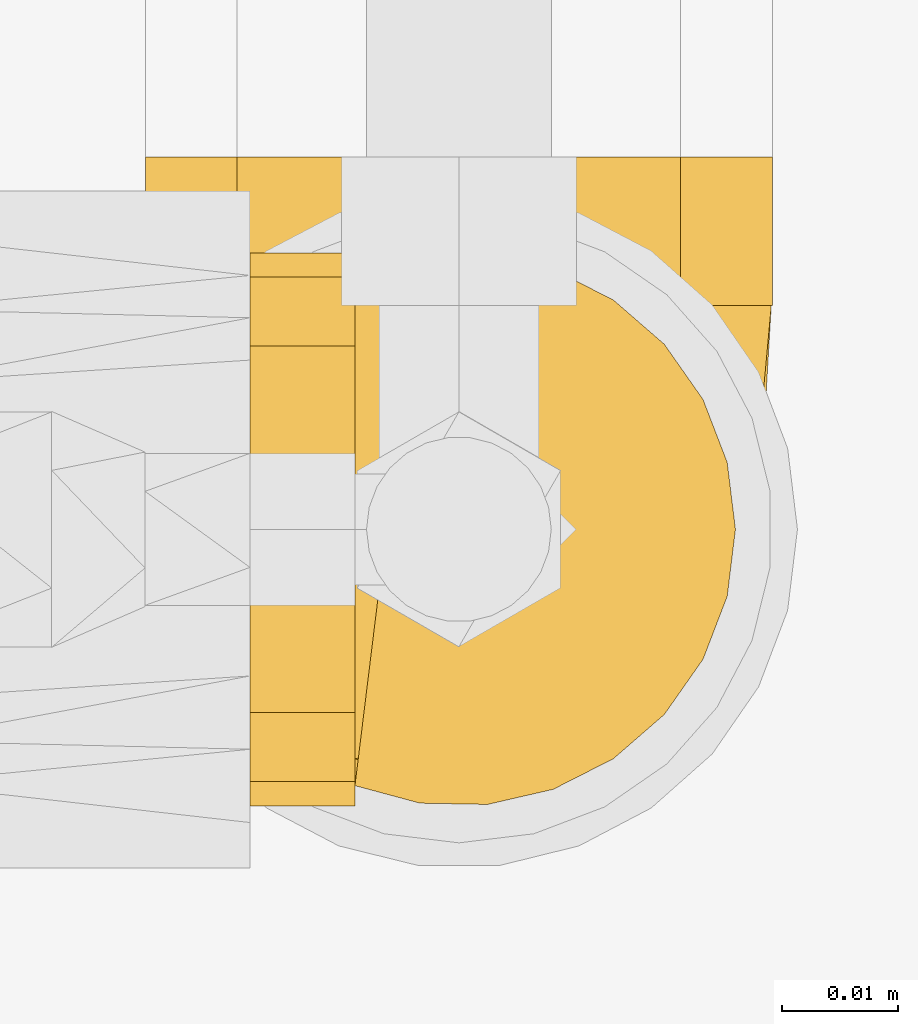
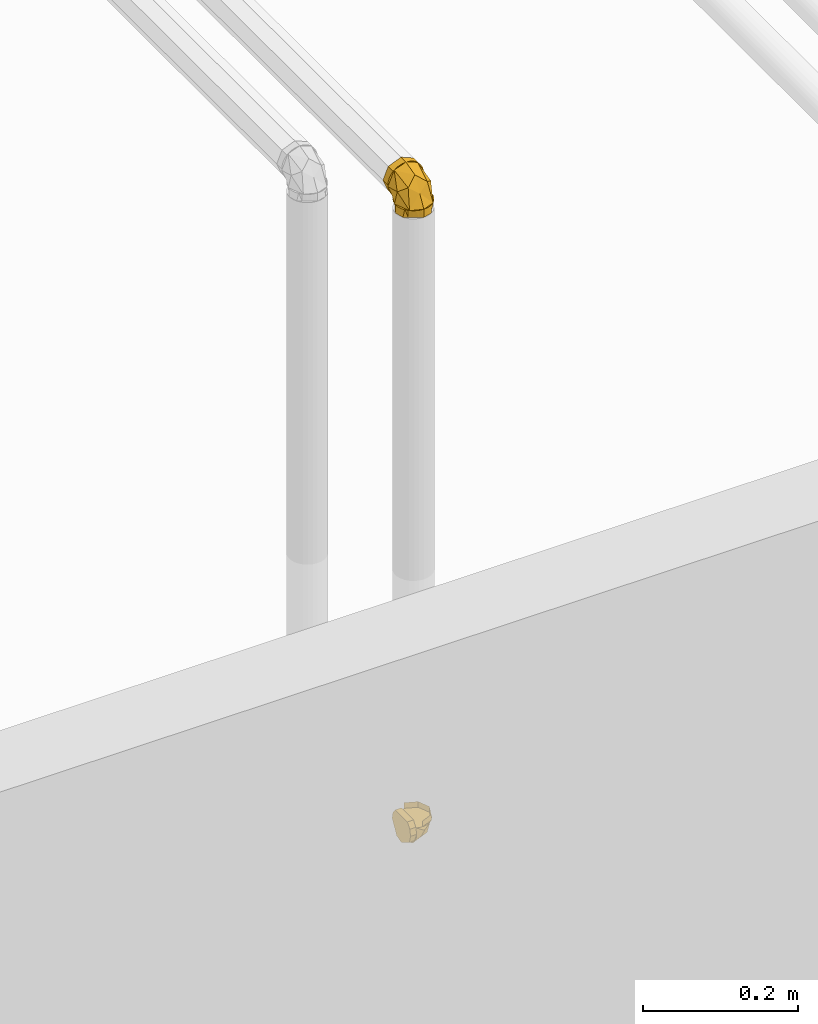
# One storey, part 345 of 652: 2 coverings.
"""IFC2X3 building model written with IfcOpenShell, lengths in millimetres."""

from ifc_helpers import new_model, entity, si_unit, converted_unit, direction, frame, origin, place, context, subcontext, project, spatial, face_set, surface_model, material, type_object, element, save


model = new_model("IFC2X3")

# Units and contexts
model_context = context("Model", 3, precision=0.01, world=frame((0.0, 0.0, 308426.39999999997)), true_north=direction((6.123233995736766e-17, 1.0)))
plan_context = context("Plan", 3, precision=0.01, world=frame((0.0, 0.0, 308426.39999999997)), true_north=direction((6.123233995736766e-17, 1.0)))
body_context = subcontext(model_context, "Body", "Model", "MODEL_VIEW")
ifc_project = project(units=[si_unit("LENGTHUNIT", "METRE", prefix="MILLI"), si_unit("AREAUNIT", "SQUARE_METRE"), si_unit("VOLUMEUNIT", "CUBIC_METRE"), converted_unit("PLANEANGLEUNIT", "DEGREE", entity("IfcPlaneAngleMeasure", 0.017453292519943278), si_unit("PLANEANGLEUNIT", "RADIAN"), dimensions=[0, 0, 0, 0, 0, 0, 0])], contexts=[model_context, plan_context])

# Site, building, storey
site_placement = place(None, origin())
site = spatial("IfcSite", under=ifc_project, at=site_placement, Name="Default", CompositionType="ELEMENT")
building_placement = place(site_placement, origin())
building = spatial("IfcBuilding", under=site, at=building_placement, CompositionType="ELEMENT")
storey_placement = place(building_placement, frame((0.0, 0.0, 1730.6999999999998)))
storey = spatial("IfcBuildingStorey", under=building, at=storey_placement, Name="EG_Produktion_FFB", CompositionType="ELEMENT", Elevation=1730.6999999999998)

# Coverings
ifc_material = material(Name="Dämmung - Armaflex-Schlauch")
covering_type = type_object("IfcCoveringType", Name="Rohrdämmung außen:Armaflex-Schlauch", PredefinedType="INSULATION")
covering_1_placement = place(storey_placement, frame((47271.46722776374, 31873.503785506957, 3668.0162499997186)))
element("IfcCovering", 1, at=covering_1_placement, inside=storey, type_object=covering_type, material=ifc_material, Name="Rohrdämmung außen:Armaflex-Schlauch", ObjectType="Rohrdämmung außen:Armaflex-Schlauch", PredefinedType="INSULATION", context=body_context, shape_type="SurfaceModel", body=[
    surface_model("IfcFaceBasedSurfaceModel", [(9.65642195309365, 47.75027223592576, 12.766249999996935), (51.38658262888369, 47.75027223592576, 17.724287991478), (54.0915642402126, 47.75027223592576, 23.47627931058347), (55.37345654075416, 47.75027223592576, 29.70195853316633), (55.16088498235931, 47.7502722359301, 36.05468574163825), (53.465685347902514, 47.7502722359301, 42.180747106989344), (50.38224474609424, 47.7502722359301, 47.739049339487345), (46.08224622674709, 47.7502722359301, 52.42011143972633), (40.8051096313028, 47.7502722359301, 55.96329630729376), (34.844660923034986, 47.7502722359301, 58.17132276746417), (28.532772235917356, 47.7502722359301, 58.92124999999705), (22.220883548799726, 47.7502722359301, 58.17132276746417), (16.26043484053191, 47.7502722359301, 55.96329630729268), (10.983298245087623, 47.7502722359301, 52.42011143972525), (6.683299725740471, 47.7502722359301, 47.739049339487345), (3.599859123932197, 47.7502722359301, 42.180747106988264), (1.904659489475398, 47.7502722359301, 36.05468574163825), (1.6920879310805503, 47.75027223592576, 29.70195853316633), (2.973980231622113, 47.75027223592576, 23.47627931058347), (5.678961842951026, 47.75027223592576, 17.72428799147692), (47.409122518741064, 47.75027223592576, 12.766249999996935), (51.38658262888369, 42.79223424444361, 12.766249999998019), (54.0915642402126, 37.04024292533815, 12.766249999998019), (55.37345654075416, 30.81456370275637, 12.7662499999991), (55.16088498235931, 24.461836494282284, 12.766250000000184), (53.465685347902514, 18.33577512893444, 12.766250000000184), (50.38224474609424, 12.77747289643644, 12.766250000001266), (46.08224622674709, 8.09641079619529, 12.766250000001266), (40.8051096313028, 4.553225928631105, 12.76625000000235), (34.844660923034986, 2.3451994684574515, 12.76625000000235), (28.532772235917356, 1.5952722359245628, 12.76625000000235), (22.220883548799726, 2.3451994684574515, 12.76625000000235), (16.26043484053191, 4.553225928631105, 12.76625000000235), (10.983298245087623, 8.09641079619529, 12.766250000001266), (6.683299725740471, 12.77747289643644, 12.766250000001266), (3.599859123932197, 18.33577512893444, 12.766250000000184), (1.904659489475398, 24.461836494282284, 12.766250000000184), (1.6920879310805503, 30.81456370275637, 12.7662499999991), (2.973980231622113, 37.04024292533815, 12.766249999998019), (5.678961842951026, 42.79223424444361, 12.766249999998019), (2.2751428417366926, 37.80652333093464, 21.44709533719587), (28.534005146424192, 24.672441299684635, 52.737627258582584), (6.340011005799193, 47.75010243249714, 41.06101440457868), (3.6006433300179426, 26.951371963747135, 33.565541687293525), (14.283712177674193, 17.333354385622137, 41.8417807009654), (28.534005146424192, 12.14064808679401, 31.030231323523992), (6.340011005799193, 19.45648060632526, 12.766229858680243), (42.77964723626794, 17.333354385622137, 41.8417807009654), (53.46736696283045, 26.951371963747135, 33.565541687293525), (54.78821657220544, 37.80652333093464, 21.44709533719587), (50.727999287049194, 19.45648060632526, 12.766229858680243), (50.727999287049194, 47.75010243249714, 41.06101440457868), (28.532772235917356, 60.51652223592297, 58.92125000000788), (33.29469446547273, 60.51652223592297, 56.94879722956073), (38.05661669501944, 60.51652223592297, 54.97634445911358), (42.81853892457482, 60.51652223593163, 53.0038916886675), (47.5804611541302, 60.51652223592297, 51.03143891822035), (49.552913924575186, 60.516522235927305, 46.26951668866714), (51.525366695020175, 60.516522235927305, 41.50759445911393), (53.497819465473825, 60.516522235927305, 36.74567222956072), (55.47027223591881, 60.516522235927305, 31.98375000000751), (53.497819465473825, 60.516522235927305, 27.2218277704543), (51.525366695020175, 60.51652223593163, 22.45990554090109), (49.552913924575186, 60.51652223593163, 17.69798331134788), (47.5804611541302, 60.51652223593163, 12.936061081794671), (42.81853892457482, 60.51652223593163, 10.963608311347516), (38.05661669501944, 60.51652223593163, 8.991155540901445), (33.29469446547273, 60.51652223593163, 7.018702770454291), (28.532772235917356, 60.51652223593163, 5.046250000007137), (23.77085000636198, 60.51652223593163, 7.018702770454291), (19.008927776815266, 60.51652223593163, 8.991155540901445), (14.247005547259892, 60.51652223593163, 10.9636083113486), (9.485083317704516, 60.51652223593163, 12.936061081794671), (7.512630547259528, 60.51652223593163, 17.69798331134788), (5.54017777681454, 60.51652223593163, 22.45990554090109), (3.567725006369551, 60.51652223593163, 27.2218277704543), (1.5952722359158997, 60.516522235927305, 31.98375000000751), (3.567725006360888, 60.516522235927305, 36.74567222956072), (5.54017777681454, 60.516522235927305, 41.50759445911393), (7.512630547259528, 60.516522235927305, 46.26951668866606), (9.485083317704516, 60.51652223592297, 51.03143891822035), (14.247005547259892, 60.51652223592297, 53.0038916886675), (19.008927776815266, 60.51652223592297, 54.97634445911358), (23.77085000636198, 60.516522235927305, 56.94879722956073), (28.532772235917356, 47.750272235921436, 58.92125000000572), (23.77085000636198, 47.750272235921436, 56.94879722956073), (19.008927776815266, 47.750272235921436, 54.97634445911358), (14.247005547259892, 47.7502722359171, 53.00389168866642), (9.485083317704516, 47.750272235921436, 51.031438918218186), (7.095738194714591, 47.75027223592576, 45.26304951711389), (4.706393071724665, 47.750272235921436, 39.494660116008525), (1.5952722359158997, 47.75027223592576, 31.983750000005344), (3.567725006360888, 47.75027223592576, 27.221827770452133), (5.54017777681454, 47.7502722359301, 22.459905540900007), (7.512630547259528, 47.7502722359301, 17.697983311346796), (9.485083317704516, 47.7502722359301, 12.936061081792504), (15.253472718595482, 47.7502722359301, 10.546715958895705), (21.021862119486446, 47.7502722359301, 8.157370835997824), (28.532772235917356, 47.7502722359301, 5.046250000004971), (33.29469446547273, 47.7502722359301, 7.018702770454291), (38.05661669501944, 47.7502722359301, 8.991155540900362), (42.81853892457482, 47.7502722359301, 10.963608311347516), (47.5804611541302, 47.7502722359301, 12.936061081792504), (49.96980627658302, 47.75027223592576, 18.704450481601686), (52.359151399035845, 47.7502722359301, 24.472839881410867), (55.47027223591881, 47.75027223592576, 31.983750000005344), (53.49781946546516, 47.75027223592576, 36.74567222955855), (51.525366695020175, 47.750272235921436, 41.507594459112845), (49.552913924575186, 47.750272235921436, 46.26951668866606), (47.5804611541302, 47.750272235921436, 51.031438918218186), (41.81207177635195, 47.750272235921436, 53.42078403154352), (36.0436823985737, 47.750272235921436, 55.81012914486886), (28.532772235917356, 1.5952722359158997, 0.0), (22.700632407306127, 4.962459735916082, 0.0), (16.868492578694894, 8.329647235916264, 0.0), (11.036352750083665, 11.696834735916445, 0.0), (5.204212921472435, 15.064022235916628, 0.0), (3.3997425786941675, 21.79839723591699, 0.0), (1.5952722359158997, 28.532772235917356, 0.0), (4.962459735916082, 34.364912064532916, 0.0), (8.329647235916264, 40.197051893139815, 0.0), (11.696834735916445, 46.02919172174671, 0.0), (15.064022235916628, 51.86133155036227, 0.0), (21.79839723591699, 53.66580189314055, 0.0), (28.532772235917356, 55.47027223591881, 0.0), (34.36491206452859, 52.10308473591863, 0.0), (40.197051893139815, 48.73589723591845, 0.0), (46.02919172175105, 45.368709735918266, 0.0), (51.86133155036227, 42.00152223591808, 0.0), (53.66580189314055, 35.26714723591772, 0.0), (55.47027223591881, 28.532772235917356, 0.0), (52.10308473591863, 22.700632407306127, 0.0), (48.73589723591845, 16.868492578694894, 0.0), (45.36870973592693, 11.036352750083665, 0.0), (42.00152223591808, 5.204212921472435, 0.0), (35.26714723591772, 3.3997425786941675, 0.0), (28.532772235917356, 1.5952722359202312, 12.7662499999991), (33.29469446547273, 3.567725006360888, 12.7662499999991), (38.05661669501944, 5.540177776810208, 12.7662499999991), (42.81853892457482, 7.512630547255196, 12.766249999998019), (47.5804611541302, 9.485083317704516, 12.7662499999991), (49.552913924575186, 14.247005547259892, 12.7662499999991), (51.525366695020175, 19.008927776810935, 12.7662499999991), (53.497819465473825, 23.77085000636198, 12.7662499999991), (55.47027223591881, 28.532772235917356, 12.7662499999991), (53.497819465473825, 33.2946944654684, 12.7662499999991), (51.525366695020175, 38.05661669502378, 12.7662499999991), (49.552913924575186, 42.81853892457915, 12.7662499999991), (47.5804611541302, 47.5804611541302, 12.7662499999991), (42.81853892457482, 49.552913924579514, 12.7662499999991), (38.05661669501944, 51.5253666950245, 12.7662499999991), (33.29469446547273, 53.49781946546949, 12.7662499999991), (28.532772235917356, 55.47027223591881, 12.7662499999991), (23.77085000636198, 53.49781946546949, 12.7662499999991), (19.008927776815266, 51.5253666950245, 12.7662499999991), (14.247005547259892, 49.552913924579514, 12.7662499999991), (9.485083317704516, 47.5804611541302, 12.7662499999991), (7.512630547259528, 42.81853892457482, 12.7662499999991), (5.54017777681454, 38.05661669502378, 12.7662499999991), (3.567725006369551, 33.29469446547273, 12.7662499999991), (1.5952722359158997, 28.532772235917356, 12.7662499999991), (3.567725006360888, 23.770850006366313, 12.7662499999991), (5.54017777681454, 19.008927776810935, 12.7662499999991), (7.512630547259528, 14.24700554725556, 12.766249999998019), (9.485083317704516, 9.485083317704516, 12.7662499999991), (14.247005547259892, 7.512630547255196, 12.7662499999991), (19.008927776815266, 5.540177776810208, 12.7662499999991), (23.77085000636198, 3.5677250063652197, 12.766249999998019)], [face_set([[[0, 1, 2, 3, 4, 5, 6, 7, 8, 9, 10, 11, 12, 13, 14, 15, 16, 17, 18, 19]], [[20, 21, 22, 23, 24, 25, 26, 27, 28, 29, 30, 31, 32, 33, 34, 35, 36, 37, 38, 39]], [[0, 40, 17]], [[10, 13, 41]], [[42, 17, 43]], [[40, 43, 17]], [[37, 40, 0]], [[13, 43, 44]], [[45, 41, 44]], [[13, 44, 41]], [[33, 30, 45]], [[45, 44, 33]], [[43, 33, 44]], [[43, 37, 46]], [[43, 13, 42]], [[37, 43, 40]], [[46, 33, 43]], [[7, 10, 41]], [[27, 47, 45]], [[45, 30, 27]], [[48, 47, 27]], [[49, 48, 23]], [[48, 50, 23]], [[45, 47, 41]], [[20, 49, 23]], [[47, 48, 7]], [[3, 49, 20]], [[41, 47, 7]], [[48, 3, 51, 7]], [[48, 27, 50]], [[3, 48, 49]]]), face_set([[[52, 53, 54, 55, 56, 57, 58, 59, 60, 61, 62, 63, 64, 65, 66, 67, 68, 69, 70, 71, 72, 73, 74, 75, 76, 77, 78, 79, 80, 81, 82, 83]], [[84, 85, 86, 87, 88, 89, 90, 91, 92, 93, 94, 95, 96, 97, 98, 99, 100, 101, 102, 103, 104, 105, 106, 107, 108, 109, 110, 111]], [[111, 110, 109, 56, 55, 54, 53, 52, 84]], [[56, 109, 108, 107, 106, 105, 60, 59, 58, 57]], [[104, 103, 102, 64, 63, 62, 61, 60, 105]], [[64, 102, 101, 100, 99, 98, 68, 67, 66, 65]], [[97, 96, 95, 72, 71, 70, 69, 68, 98]], [[72, 95, 94, 93, 92, 91, 76, 75, 74, 73]], [[90, 89, 88, 80, 79, 78, 77, 76, 91]], [[80, 88, 87, 86, 85, 84, 52, 83, 82, 81]]]), face_set([[[112, 113, 114, 115, 116, 117, 118, 119, 120, 121, 122, 123, 124, 125, 126, 127, 128, 129, 130, 131, 132, 133, 134, 135]], [[136, 137, 138, 139, 140, 141, 142, 143, 144, 145, 146, 147, 148, 149, 150, 151, 152, 153, 154, 155, 156, 157, 158, 159, 160, 161, 162, 163, 164, 165, 166, 167]], [[155, 121, 156]], [[118, 159, 119]], [[159, 158, 119]], [[123, 154, 153]], [[153, 152, 124]], [[121, 155, 122]], [[120, 158, 157]], [[118, 160, 159]], [[158, 120, 119]], [[124, 123, 153]], [[157, 156, 121]], [[155, 154, 122]], [[123, 122, 154]], [[120, 157, 121]], [[163, 115, 164]], [[112, 167, 113]], [[167, 166, 113]], [[117, 162, 161]], [[161, 160, 118]], [[115, 163, 116]], [[114, 166, 165]], [[112, 136, 167]], [[166, 114, 113]], [[118, 117, 161]], [[165, 164, 115]], [[163, 162, 116]], [[117, 116, 162]], [[114, 165, 115]], [[139, 133, 140]], [[130, 143, 131]], [[143, 142, 131]], [[135, 138, 137]], [[137, 136, 112]], [[133, 139, 134]], [[132, 142, 141]], [[130, 144, 143]], [[142, 132, 131]], [[112, 135, 137]], [[141, 140, 133]], [[139, 138, 134]], [[135, 134, 138]], [[132, 141, 133]], [[147, 127, 148]], [[124, 151, 125]], [[151, 150, 125]], [[129, 146, 145]], [[145, 144, 130]], [[127, 147, 128]], [[126, 150, 149]], [[124, 152, 151]], [[150, 126, 125]], [[130, 129, 145]], [[149, 148, 127]], [[147, 146, 128]], [[129, 128, 146]], [[126, 149, 127]]])]),
])
covering_2_placement = place(storey_placement, frame((47280.61107910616, 31876.67878550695, 2674.6422277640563)))
element("IfcCovering", 2, at=covering_2_placement, inside=storey, type_object=covering_type, material=ifc_material, Name="Rohrdämmung außen:Armaflex-Schlauch", ObjectType="Rohrdämmung außen:Armaflex-Schlauch", PredefinedType="INSULATION", context=body_context, shape_type="SurfaceModel", body=[
    surface_model("IfcFaceBasedSurfaceModel", [(10.458420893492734, 3.3372686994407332, 34.28827223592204), (16.054796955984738, 1.8303409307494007, 34.28827223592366), (21.84951324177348, 1.7230119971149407, 34.288272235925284), (27.497853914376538, 3.0216666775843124, 34.288272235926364), (32.66381072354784, 5.649050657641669, 34.28827223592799), (37.04007144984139, 9.448866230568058, 34.28827223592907), (40.36630128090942, 14.19507012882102, 34.28827223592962), (42.44462959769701, 19.605320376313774, 34.2882722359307), (43.151420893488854, 25.357772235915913, 34.2882722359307), (42.44462959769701, 31.11022409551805, 34.2882722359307), (40.36630128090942, 36.520474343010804, 34.28827223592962), (37.04007144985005, 41.26667824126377, 34.28827223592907), (32.66381072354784, 45.06649381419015, 34.28827223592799), (27.497853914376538, 47.69387779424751, 34.288272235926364), (21.84951324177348, 48.99253247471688, 34.288272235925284), (16.054796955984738, 48.885203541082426, 34.28827223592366), (10.458420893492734, 47.37827577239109, 34.28827223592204), (10.458420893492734, 48.885203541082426, 28.691896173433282), (10.458420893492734, 48.99253247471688, 22.897179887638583), (10.458420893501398, 47.69387779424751, 17.248839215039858), (10.458420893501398, 45.06649381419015, 12.08288240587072), (10.458420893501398, 41.26667824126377, 7.706621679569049), (10.458420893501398, 36.520474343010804, 4.3803918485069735), (10.458420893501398, 31.11022409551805, 2.3020635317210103), (10.458420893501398, 25.357772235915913, 1.5952722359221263), (10.458420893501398, 19.605320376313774, 2.3020635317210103), (10.458420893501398, 14.19507012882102, 4.3803918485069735), (10.458420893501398, 9.448866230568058, 7.706621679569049), (10.458420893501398, 5.649050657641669, 12.08288240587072), (10.458420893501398, 3.0216666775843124, 17.248839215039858), (10.458420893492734, 1.7230119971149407, 22.897179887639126), (10.458420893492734, 1.8303409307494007, 28.691896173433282), (18.580900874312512, 2.9985704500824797, 19.38129671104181), (30.59412108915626, 9.498173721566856, 16.867205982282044), (10.460466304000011, 4.4798753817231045, 23.314486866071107), (37.970415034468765, 15.618730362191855, 34.28823564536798), (38.77036620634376, 25.357670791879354, 17.941849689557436), (10.460466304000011, 15.502458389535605, 6.839039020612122), (23.52478515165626, 25.357670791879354, 9.14006135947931), (22.52484618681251, 2.1404832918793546, 27.20814455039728), (21.562114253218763, 4.493828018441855, 34.28823564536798), (18.580900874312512, 47.71677113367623, 19.38129671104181), (22.52484618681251, 48.57485829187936, 27.20814455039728), (30.59412108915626, 41.21716786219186, 16.867205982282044), (37.970415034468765, 35.09661122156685, 34.28823564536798), (10.460466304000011, 46.2354662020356, 23.314486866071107), (10.460466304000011, 35.09661122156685, 6.7782869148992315), (24.61309081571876, 25.357670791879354, 9.76851137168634), (21.562114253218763, 46.221513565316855, 34.28823564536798), (19.39015380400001, 1.5963304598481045, 43.30803392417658), (19.39015380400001, 1.5963304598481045, 34.28823564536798), (36.19377929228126, 8.554045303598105, 34.28823564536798), (36.19377929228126, 8.554045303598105, 43.30803392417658), (43.15149413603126, 25.357670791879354, 34.28823564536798), (43.15149413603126, 25.357670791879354, 43.30803392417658), (36.19377929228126, 42.161296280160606, 34.28823564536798), (36.19377929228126, 42.161296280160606, 43.30803392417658), (19.39015380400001, 49.121336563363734, 34.28823564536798), (19.39015380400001, 49.121336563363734, 43.30803392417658), (1.4386708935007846, 46.1499597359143, 20.213040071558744), (1.4386708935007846, 43.179647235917, 15.06830790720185), (1.4386708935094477, 40.20933473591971, 9.923575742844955), (1.4386708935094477, 37.239022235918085, 4.7788435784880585), (1.4386708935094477, 31.298397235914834, 3.1870579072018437), (1.4386708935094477, 25.357772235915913, 1.595272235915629), (1.4386708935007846, 20.21304007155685, 4.565584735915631), (1.4386708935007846, 15.06830790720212, 7.535897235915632), (1.4386708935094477, 9.92357574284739, 10.506209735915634), (1.4386708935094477, 4.778843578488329, 13.476522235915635), (1.4386708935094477, 3.1870579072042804, 19.41714723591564), (1.4386708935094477, 1.5952722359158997, 25.35777223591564), (1.4386708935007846, 2.6431209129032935, 30.23645211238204), (1.4386708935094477, 3.690969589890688, 35.11513198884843), (1.4386708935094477, 6.649688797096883, 39.13327644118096), (1.4386708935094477, 9.608408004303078, 43.15142089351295), (1.4386708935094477, 41.10713646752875, 43.15142089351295), (1.4386708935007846, 44.06585567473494, 39.13327644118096), (1.4386708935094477, 47.024574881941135, 35.11513198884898), (1.4386708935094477, 48.07242355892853, 30.23645211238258), (1.4386708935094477, 49.12027223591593, 25.35777223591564), (10.458420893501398, 42.16039712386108, 8.55514734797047), (10.458420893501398, 43.900365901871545, 12.755803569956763), (10.458420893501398, 45.64033467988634, 16.956459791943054), (10.458420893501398, 47.38030345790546, 21.15711601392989), (10.458420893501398, 49.12027223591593, 25.35777223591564), (10.458420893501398, 48.07242355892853, 30.23645211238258), (10.458420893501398, 47.02457488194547, 35.11513198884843), (10.458420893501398, 43.985875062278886, 39.241895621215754), (10.458420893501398, 41.10713646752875, 43.15142089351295), (10.458420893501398, 9.60840800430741, 43.15142089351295), (10.458420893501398, 6.649688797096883, 39.13327644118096), (10.458420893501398, 3.690969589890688, 35.11513198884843), (10.458420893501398, 2.6147952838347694, 30.10457078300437), (10.458420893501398, 1.5952722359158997, 25.35777223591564), (10.458420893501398, 3.3352410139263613, 21.157116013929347), (10.458420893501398, 5.075209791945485, 16.956459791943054), (10.458420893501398, 6.815178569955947, 12.755803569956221), (10.458420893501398, 8.55514734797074, 8.555147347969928), (10.458420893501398, 12.755803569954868, 6.8151785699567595), (10.458420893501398, 16.956459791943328, 5.075209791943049), (10.458420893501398, 21.157116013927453, 3.335241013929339), (10.458420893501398, 25.357772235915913, 1.595272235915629), (10.458420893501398, 29.55842845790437, 3.335241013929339), (10.458420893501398, 33.759084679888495, 5.075209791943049), (10.458420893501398, 37.959740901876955, 6.8151785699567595)], [face_set([[[0, 1, 2, 3, 4, 5, 6, 7, 8, 9, 10, 11, 12, 13, 14, 15]], [[16, 17, 18, 19, 20, 21, 22, 23, 24, 25, 26, 27, 28, 29, 30, 31]], [[32, 28, 33]], [[32, 34, 28]], [[33, 35, 4]], [[35, 33, 36]], [[36, 8, 35]], [[33, 37, 38]], [[39, 4, 40, 0]], [[32, 33, 39]], [[34, 32, 0]], [[4, 39, 33]], [[38, 36, 33]], [[0, 32, 39]], [[33, 28, 37]], [[37, 24, 38]], [[41, 16, 42]], [[43, 44, 36]], [[20, 45, 41]], [[46, 43, 47]], [[44, 8, 36]], [[12, 43, 42]], [[44, 43, 12]], [[42, 16, 48, 12]], [[20, 43, 46]], [[16, 41, 45]], [[43, 41, 42]], [[43, 36, 47]], [[47, 24, 46]], [[20, 41, 43]]]), face_set([[[49, 50, 51, 52]], [[53, 54, 52, 51]], [[54, 53, 55, 56]], [[57, 58, 56, 55]]]), face_set([[[59, 60, 61, 62, 63, 64, 65, 66, 67, 68, 69, 70, 71, 72, 73, 74, 75, 76, 77, 78, 79]], [[80, 81, 82, 83, 84, 85, 86, 87, 88, 89, 90, 91, 92, 93, 94, 95, 96, 97, 98, 99, 100, 101, 102, 103, 104]], [[75, 74, 89, 88]], [[71, 70, 93, 92, 91, 72]], [[73, 72, 91, 90, 89, 74]], [[96, 67, 97]], [[64, 100, 65]], [[100, 99, 65]], [[69, 95, 94]], [[94, 93, 70]], [[67, 96, 68]], [[66, 99, 98]], [[64, 101, 100]], [[99, 66, 65]], [[70, 69, 94]], [[98, 97, 67]], [[96, 95, 68]], [[69, 68, 95]], [[66, 98, 67]], [[104, 61, 80]], [[79, 83, 59]], [[83, 82, 59]], [[63, 103, 102]], [[102, 101, 64]], [[61, 104, 62]], [[60, 82, 81]], [[79, 84, 83]], [[82, 60, 59]], [[64, 63, 102]], [[81, 80, 61]], [[104, 103, 62]], [[63, 62, 103]], [[60, 81, 61]], [[76, 75, 88, 87, 86, 77]], [[78, 77, 86, 85, 84, 79]]])]),
])

save(model, "model.ifc")
